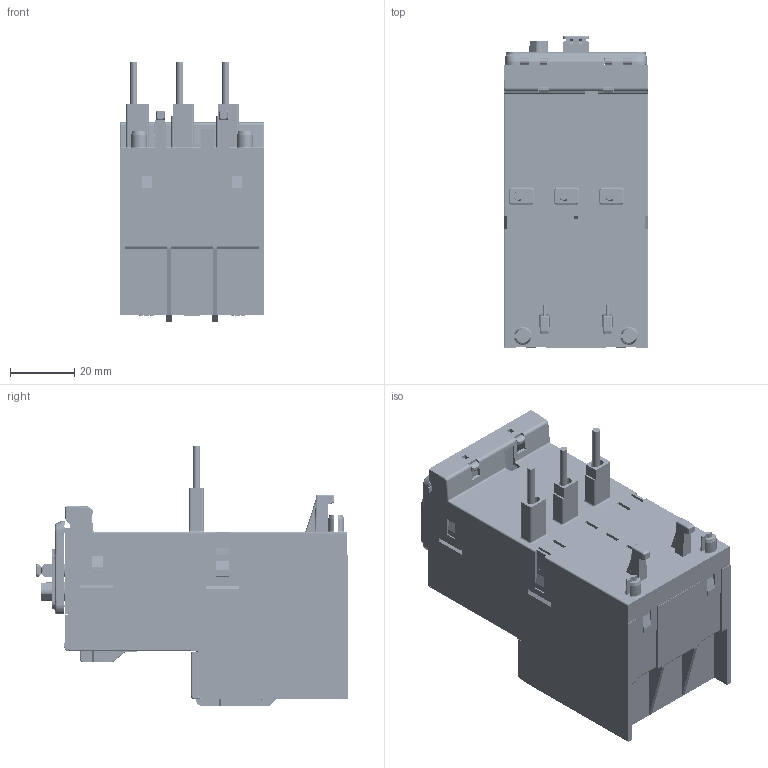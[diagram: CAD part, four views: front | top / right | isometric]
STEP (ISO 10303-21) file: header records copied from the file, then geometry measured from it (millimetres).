
FILE_DESCRIPTION(/* description */ (''),/* implementation_level */ '2;1');
FILE_NAME(/* name */ 'HGT40AF.stp',/* time_stamp */ '2017-12-06T11:41:25+09:00',/* author */ (''),/* organization */ (''),/* preprocessor_version */ 'ST-DEVELOPER v15',/* originating_system */ 'SIEMENS PLM Software NX 9.0',/* authorisation */ '');
FILE_SCHEMA (('CONFIG_CONTROL_DESIGN'));
Products named in the file (2): Test Bar HGT18-100AF; HGT40AF
Assembly tree (1 placements, depth 2):
  HGT40AF
    Test Bar HGT18-100AF
Bounding box: 45 x 97.05 x 80.75 mm (x, y, z)
Volume: 122980.5 mm3; surface area: 90912.2 mm2
Topology: 36 solids, 48 shells, 6125 faces, 16791 edges, 10827 vertices
Faces by surface type: plane 4060, cylinder 1336, bspline 262, torus 207, cone 98, extrusion 97, sphere 65
Full cylindrical faces by diameter (mm): 1.8 x6, 3 x6, 4 x1, 4.3 x3, 5.7 x1, 6.5 x1, 6.7 x5, 6.8 x1, 7 x1, 12 x1
Entity records: 220949 total; most frequent: CARTESIAN_POINT 66657, ORIENTED_EDGE 33396, DIRECTION 30204, EDGE_CURVE 16698, VECTOR 12328, LINE 12231, VERTEX_POINT 10803, AXIS2_PLACEMENT_3D 8938
